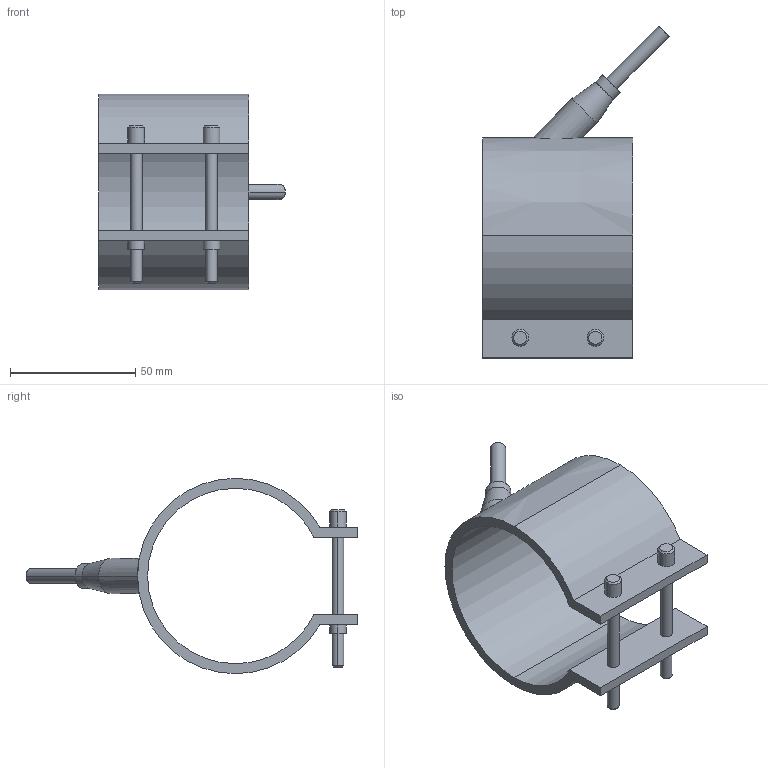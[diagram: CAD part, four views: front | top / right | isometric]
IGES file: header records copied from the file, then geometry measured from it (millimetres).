
Start section: START RECORD GO HERE.
Global section: file name: 29070060.igs; native system: DASSAULT SYSTEMES CATIA V5 R20 - www.3ds.com; preprocessor: CATIA Version 5 Release 20 ; author: Utente; organization: NB04-ASUS; date: 20210329.201807; units: millimetre
Bounding box: 74.55 x 132.55 x 78 mm (x, y, z)
Surface area: 33074.8 mm2 (no closed solid volume)
Topology: 0 solids, 0 shells, 54 faces, 252 edges, 252 vertices
Faces by surface type: revolution 38, plane 16
